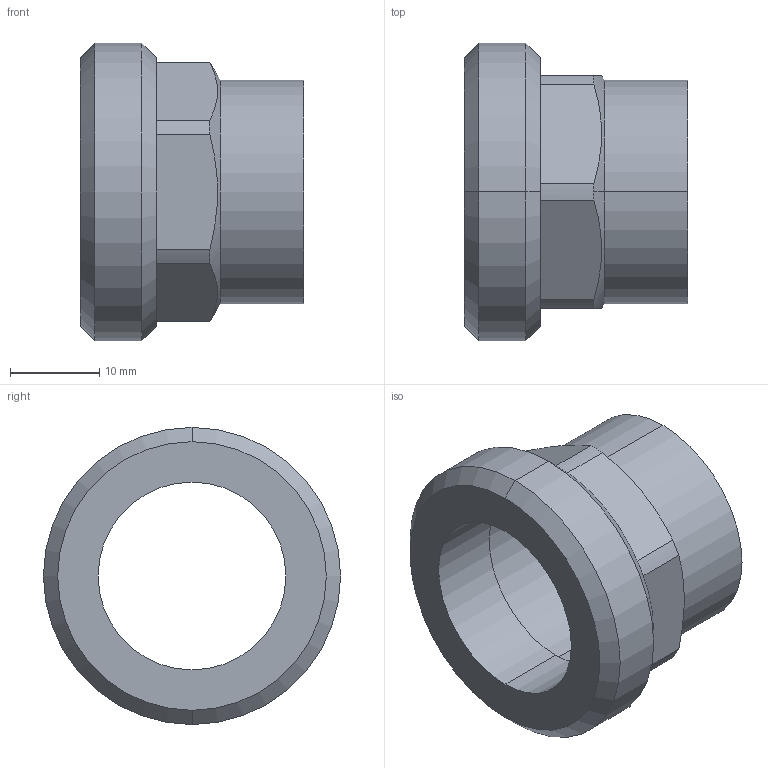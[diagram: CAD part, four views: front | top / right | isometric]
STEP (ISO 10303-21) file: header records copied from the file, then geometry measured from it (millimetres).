
FILE_DESCRIPTION((''),'2;1');
FILE_NAME('14370-22-1(1).stp','2009-02-03T09:46:36',(''),(''),'Mechanical Desktop 2009','Mechanical Desktop 2009',', , ');
FILE_SCHEMA(('CONFIG_CONTROL_DESIGN'));
Length unit declared in the file: millimetre
Products named in the file (2): 4370-22-1(1); CZﾊ姑1
Assembly tree (1 placements, depth 2):
  4370-22-1(1)
    CZﾊ姑1
Bounding box: 25 x 33.25 x 33.25 mm (x, y, z)
Volume: 6606.9 mm3; surface area: 4754.1 mm2
Topology: 1 solids, 1 shells, 30 faces, 72 edges, 46 vertices
Faces by surface type: cylinder 14, plane 10, cone 6
Entity records: 989 total; most frequent: DIRECTION 164, CARTESIAN_POINT 162, ORIENTED_EDGE 144, EDGE_CURVE 72, AXIS2_PLACEMENT_3D 66, VERTEX_POINT 46, CIRCLE 34, EDGE_LOOP 34
